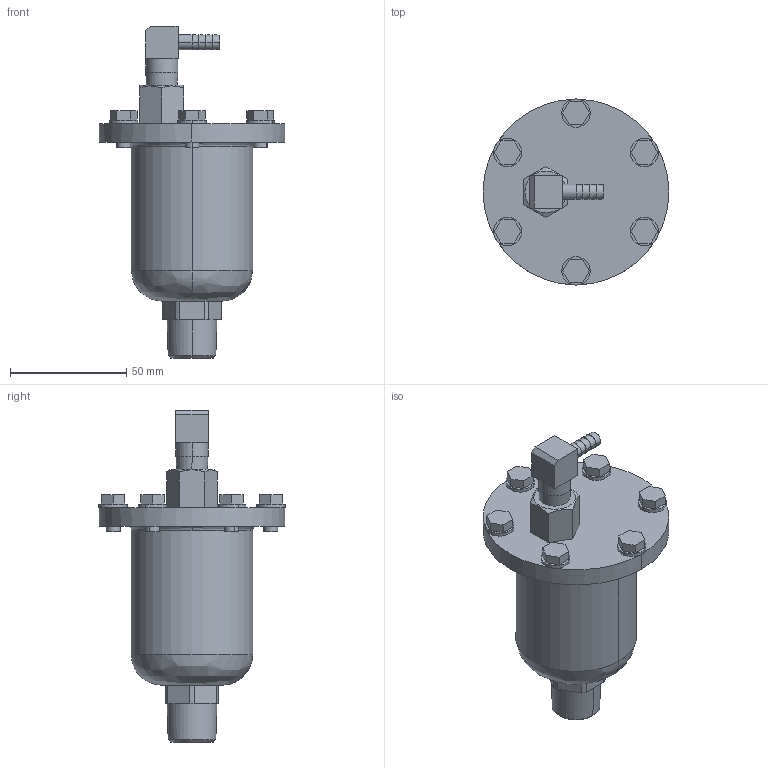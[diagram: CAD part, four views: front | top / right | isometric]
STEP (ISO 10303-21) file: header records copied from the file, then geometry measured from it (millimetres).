
FILE_DESCRIPTION( (''), '2;1');
FILE_NAME ('PC1027.10420.TA-16L 15A_2413.stp','2025-07-29T11:28:54',(''),(''),'spGate 20.6.3 (****-****-****-****)','','');
FILE_SCHEMA (('AUTOMOTIVE_DESIGN'));
Length unit declared in the file: millimetre
Products named in the file (2): Assembly; TA-16L 15A
Assembly tree (1 placements, depth 2):
  Assembly
    TA-16L 15A
Bounding box: 80 x 80.2 x 143 mm (x, y, z)
Volume: 203694.2 mm3; surface area: 28440.1 mm2
Topology: 1 solids, 1 shells, 153 faces, 362 edges, 235 vertices
Faces by surface type: plane 91, cylinder 42, bspline 20
Entity records: 7599 total; most frequent: CARTESIAN_POINT 1120, ORIENTED_EDGE 724, DIRECTION 711, COLOUR_RGB 516, PRESENTATION_STYLE_ASSIGNMENT 516, STYLED_ITEM 516, EDGE_CURVE 362, DRAUGHTING_PRE_DEFINED_CURVE_FONT 362
